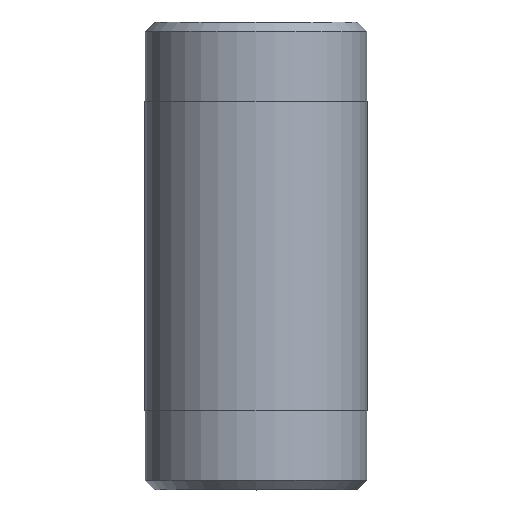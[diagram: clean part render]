
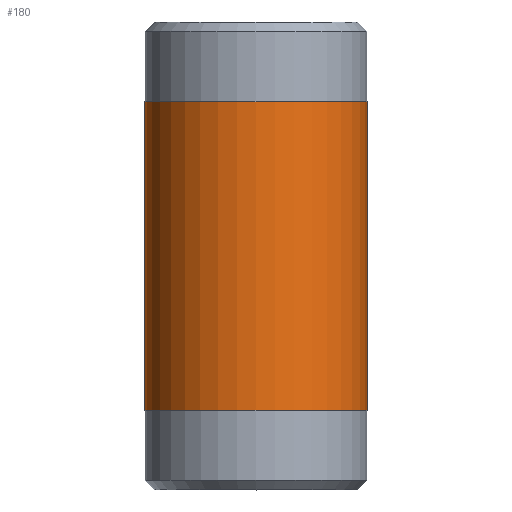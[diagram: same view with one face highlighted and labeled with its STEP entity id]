
A CAD part, top view. The second image highlights one B-rep face of the part: STEP entity #180.
In plain terms, the highlighted cylindrical face has radius 24.13 mm (diameter 48.26 mm), a full revolution.
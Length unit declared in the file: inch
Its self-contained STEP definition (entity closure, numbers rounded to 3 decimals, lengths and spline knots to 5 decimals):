
#25=CYLINDRICAL_SURFACE('',#220,0.95);
#34=FACE_OUTER_BOUND('',#47,.T.);
#47=EDGE_LOOP('',(#155,#156,#157,#158,#159,#160));
#55=LINE('',#338,#61);
#61=VECTOR('',#283,0.95);
#77=CIRCLE('',#218,0.95);
#78=CIRCLE('',#219,0.95);
#79=CIRCLE('',#221,0.95);
#80=CIRCLE('',#222,0.95);
#95=VERTEX_POINT('',#329);
#96=VERTEX_POINT('',#330);
#97=VERTEX_POINT('',#334);
#98=VERTEX_POINT('',#335);
#117=EDGE_CURVE('',#95,#96,#77,.T.);
#118=EDGE_CURVE('',#96,#95,#78,.T.);
#119=EDGE_CURVE('',#97,#98,#79,.T.);
#120=EDGE_CURVE('',#98,#97,#80,.T.);
#121=EDGE_CURVE('',#98,#96,#55,.T.);
#155=ORIENTED_EDGE('',*,*,#119,.F.);
#156=ORIENTED_EDGE('',*,*,#120,.F.);
#157=ORIENTED_EDGE('',*,*,#121,.T.);
#158=ORIENTED_EDGE('',*,*,#118,.T.);
#159=ORIENTED_EDGE('',*,*,#117,.T.);
#160=ORIENTED_EDGE('',*,*,#121,.F.);
#180=ADVANCED_FACE('',(#34),#25,.T.);
#218=AXIS2_PLACEMENT_3D('',#331,#273,#274);
#219=AXIS2_PLACEMENT_3D('',#332,#275,#276);
#220=AXIS2_PLACEMENT_3D('',#333,#277,#278);
#221=AXIS2_PLACEMENT_3D('',#336,#279,#280);
#222=AXIS2_PLACEMENT_3D('',#337,#281,#282);
#273=DIRECTION('center_axis',(0.,-1.,0.));
#274=DIRECTION('ref_axis',(1.,0.,0.));
#275=DIRECTION('center_axis',(0.,-1.,0.));
#276=DIRECTION('ref_axis',(1.,0.,0.));
#277=DIRECTION('center_axis',(0.,-1.,0.));
#278=DIRECTION('ref_axis',(0.,0.,-1.));
#279=DIRECTION('center_axis',(0.,-1.,0.));
#280=DIRECTION('ref_axis',(1.,0.,0.));
#281=DIRECTION('center_axis',(0.,-1.,0.));
#282=DIRECTION('ref_axis',(1.,0.,0.));
#283=DIRECTION('',(0.,1.,0.));
#329=CARTESIAN_POINT('',(0.,3.319,-0.95));
#330=CARTESIAN_POINT('',(0.,3.319,0.95));
#331=CARTESIAN_POINT('Origin',(0.,3.319,0.));
#332=CARTESIAN_POINT('Origin',(0.,3.319,0.));
#333=CARTESIAN_POINT('Origin',(0.,2.,0.));
#334=CARTESIAN_POINT('',(0.,0.681,-0.95));
#335=CARTESIAN_POINT('',(0.,0.681,0.95));
#336=CARTESIAN_POINT('Origin',(0.,0.681,0.));
#337=CARTESIAN_POINT('Origin',(0.,0.681,0.));
#338=CARTESIAN_POINT('',(0.,2.,0.95));
